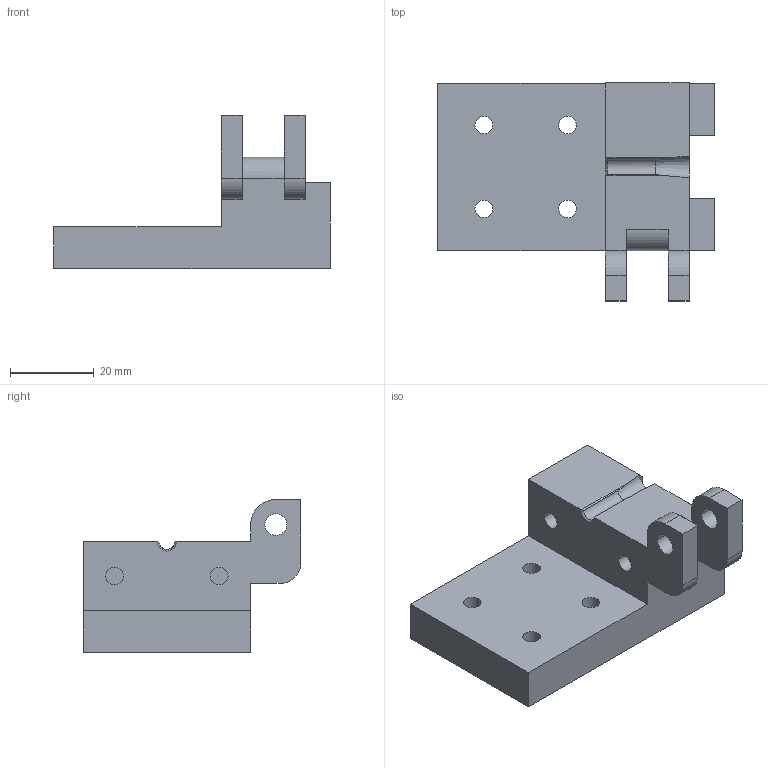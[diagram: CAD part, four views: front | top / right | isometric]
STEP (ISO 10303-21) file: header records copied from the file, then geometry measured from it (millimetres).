
FILE_DESCRIPTION(('CATIA V5 STEP Exchange'),'2;1');
FILE_NAME('D:\姚明阳\1、工装图纸\2.0直通-三通插管治具图纸\TAT0010041-001_B\pdf+stp\TAT0010041-001-B.stp','2024-10-30T08:01:10+00:00',('none'),('none'),'CATIA Version 5 Release 21 GA (IN-10)','CATIA V5 STEP AP214','none');
FILE_SCHEMA(('AUTOMOTIVE_DESIGN { 1 0 10303 214 1 1 1 1 }'));
Length unit declared in the file: millimetre
Products named in the file (1): 下压块
Bounding box: 66 x 52 x 36.5 mm (x, y, z)
Volume: 39037.6 mm3; surface area: 12237.9 mm2
Topology: 1 solids, 1 shells, 59 faces, 167 edges, 112 vertices
Faces by surface type: plane 35, cylinder 22, cone 2
Entity records: 1837 total; most frequent: CARTESIAN_POINT 349, ORIENTED_EDGE 334, DIRECTION 237, EDGE_CURVE 167, VECTOR 117, LINE 117, VERTEX_POINT 112, AXIS2_PLACEMENT_3D 83
